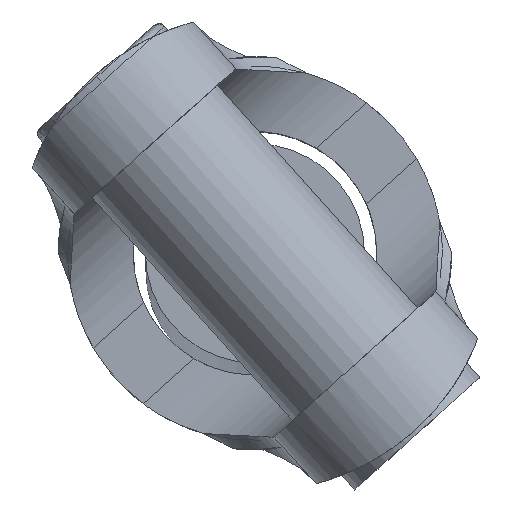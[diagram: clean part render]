
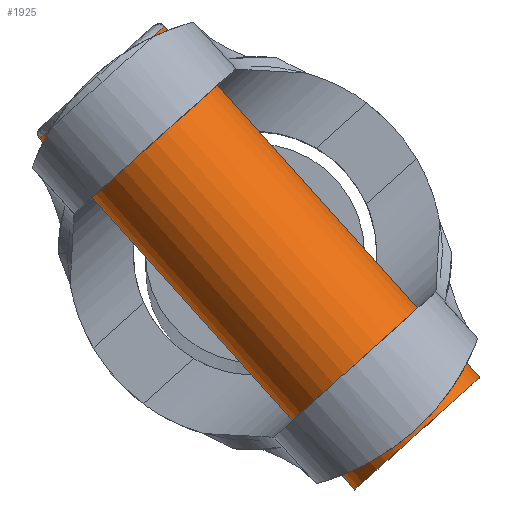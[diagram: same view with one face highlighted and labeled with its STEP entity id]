
A CAD part, top view. The second image highlights one B-rep face of the part: STEP entity #1925.
In plain terms, the highlighted cylindrical face has radius 4.5 mm (diameter 9 mm), a partial arc.
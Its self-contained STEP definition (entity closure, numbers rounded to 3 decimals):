
#19 = LINE ( 'NONE', #595, #1291 ) ;
#38 = CARTESIAN_POINT ( 'NONE',  ( -8.168, 9.103, -195.5 ) ) ;
#93 = EDGE_CURVE ( 'NONE', #318, #500, #1872, .T. ) ;
#241 = DIRECTION ( 'NONE',  ( -0.744, -0.668, 0. ) ) ;
#271 = VECTOR ( 'NONE', #1441, 1000. ) ;
#318 = VERTEX_POINT ( 'NONE', #1382 ) ;
#346 = AXIS2_PLACEMENT_3D ( 'NONE', #1450, #1159, #241 ) ;
#364 = CARTESIAN_POINT ( 'NONE',  ( -0.999, 7.852, -200. ) ) ;
#439 = EDGE_CURVE ( 'NONE', #1757, #500, #1129, .T. ) ;
#484 = CARTESIAN_POINT ( 'NONE',  ( -4.818, 12.108, -200. ) ) ;
#500 = VERTEX_POINT ( 'NONE', #518 ) ;
#518 = CARTESIAN_POINT ( 'NONE',  ( 12.011, -6.649, -200. ) ) ;
#537 = CYLINDRICAL_SURFACE ( 'NONE', #346, 4.5 ) ;
#546 = ORIENTED_EDGE ( 'NONE', *, *, #93, .T. ) ;
#582 = VERTEX_POINT ( 'NONE', #38 ) ;
#595 = CARTESIAN_POINT ( 'NONE',  ( -7.698, 1.841, -200. ) ) ;
#621 = EDGE_LOOP ( 'NONE', ( #1625, #1377, #1025, #1798, #546 ) ) ;
#630 = DIRECTION ( 'NONE',  ( 0.668, -0.744, 0. ) ) ;
#655 = CARTESIAN_POINT ( 'NONE',  ( -8.168, 9.103, -200. ) ) ;
#662 = DIRECTION ( 'NONE',  ( -0.668, 0.744, 0. ) ) ;
#690 = CARTESIAN_POINT ( 'NONE',  ( 8.662, -9.654, -200. ) ) ;
#845 = DIRECTION ( 'NONE',  ( -0.744, -0.668, 0. ) ) ;
#954 = DIRECTION ( 'NONE',  ( -0.744, -0.668, 0. ) ) ;
#1025 = ORIENTED_EDGE ( 'NONE', *, *, #1793, .T. ) ;
#1110 = DIRECTION ( 'NONE',  ( -0.744, -0.668, 0. ) ) ;
#1129 = LINE ( 'NONE', #364, #271 ) ;
#1159 = DIRECTION ( 'NONE',  ( 0.668, -0.744, 0. ) ) ;
#1234 = CARTESIAN_POINT ( 'NONE',  ( -8.168, 9.103, -200. ) ) ;
#1243 = EDGE_CURVE ( 'NONE', #1757, #582, #1838, .T. ) ;
#1291 = VECTOR ( 'NONE', #630, 1000. ) ;
#1377 = ORIENTED_EDGE ( 'NONE', *, *, #1243, .T. ) ;
#1382 = CARTESIAN_POINT ( 'NONE',  ( 5.312, -12.659, -200. ) ) ;
#1426 = AXIS2_PLACEMENT_3D ( 'NONE', #690, #662, #845 ) ;
#1441 = DIRECTION ( 'NONE',  ( 0.668, -0.744, 0. ) ) ;
#1450 = CARTESIAN_POINT ( 'NONE',  ( -4.349, 4.847, -200. ) ) ;
#1477 = EDGE_CURVE ( 'NONE', #1921, #318, #19, .T. ) ;
#1580 = FACE_OUTER_BOUND ( 'NONE', #621, .T. ) ;
#1604 = AXIS2_PLACEMENT_3D ( 'NONE', #1234, #1700, #1110 ) ;
#1616 = CARTESIAN_POINT ( 'NONE',  ( -11.517, 6.098, -200. ) ) ;
#1625 = ORIENTED_EDGE ( 'NONE', *, *, #439, .F. ) ;
#1699 = DIRECTION ( 'NONE',  ( 0.668, -0.744, 0. ) ) ;
#1700 = DIRECTION ( 'NONE',  ( 0.668, -0.744, 0. ) ) ;
#1757 = VERTEX_POINT ( 'NONE', #484 ) ;
#1763 = AXIS2_PLACEMENT_3D ( 'NONE', #655, #1699, #954 ) ;
#1793 = EDGE_CURVE ( 'NONE', #582, #1921, #1796, .T. ) ;
#1796 = CIRCLE ( 'NONE', #1604, 4.5 ) ;
#1798 = ORIENTED_EDGE ( 'NONE', *, *, #1477, .T. ) ;
#1838 = CIRCLE ( 'NONE', #1763, 4.5 ) ;
#1872 = CIRCLE ( 'NONE', #1426, 4.5 ) ;
#1921 = VERTEX_POINT ( 'NONE', #1616 ) ;
#1925 = ADVANCED_FACE ( 'NONE', ( #1580 ), #537, .T. ) ;
